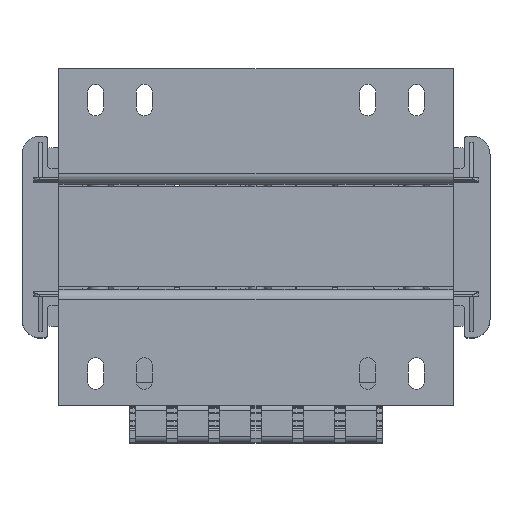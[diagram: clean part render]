
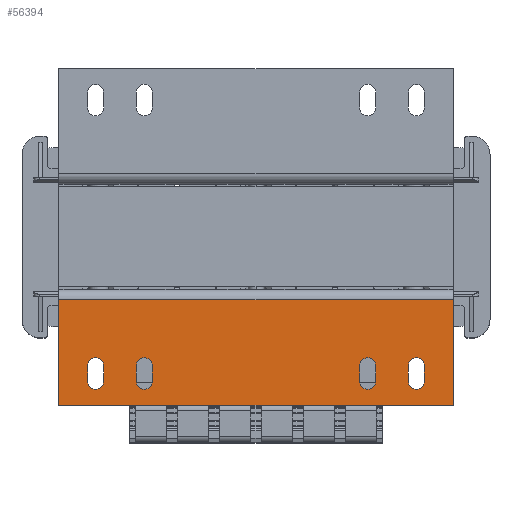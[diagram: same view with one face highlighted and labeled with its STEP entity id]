
A CAD part, top view. The second image highlights one B-rep face of the part: STEP entity #56394.
In plain terms, the highlighted planar face has unit normal (0, 0, 1).
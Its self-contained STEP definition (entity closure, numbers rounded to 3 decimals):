
#1546=DIRECTION('',(-1.,0.,0.));
#1547=VECTOR('',#1546,150.);
#1548=CARTESIAN_POINT('',(75.,-24.,17.));
#1549=LINE('',#1548,#1547);
#1920=DIRECTION('',(0.,-1.,0.));
#1921=VECTOR('',#1920,40.);
#1922=CARTESIAN_POINT('',(75.,-24.,17.));
#1923=LINE('',#1922,#1921);
#1924=DIRECTION('',(-1.,0.,0.));
#1925=VECTOR('',#1924,150.);
#1926=CARTESIAN_POINT('',(75.,-64.,17.));
#1927=LINE('',#1926,#1925);
#1928=DIRECTION('',(0.,1.,0.));
#1929=VECTOR('',#1928,40.);
#1930=CARTESIAN_POINT('',(-75.,-64.,17.));
#1931=LINE('',#1930,#1929);
#1932=DIRECTION('',(0.,1.,0.));
#1933=VECTOR('',#1932,6.);
#1934=CARTESIAN_POINT('',(-58.,-55.,17.));
#1935=LINE('',#1934,#1933);
#1936=CARTESIAN_POINT('',(-61.,-49.,17.));
#1937=DIRECTION('',(0.,0.,-1.));
#1938=DIRECTION('',(-1.,0.,0.));
#1939=AXIS2_PLACEMENT_3D('',#1936,#1937,#1938);
#1941=DIRECTION('',(0.,-1.,0.));
#1942=VECTOR('',#1941,6.);
#1943=CARTESIAN_POINT('',(-64.,-49.,17.));
#1944=LINE('',#1943,#1942);
#1945=CARTESIAN_POINT('',(-61.,-55.,17.));
#1946=DIRECTION('',(0.,0.,-1.));
#1947=DIRECTION('',(1.,0.,0.));
#1948=AXIS2_PLACEMENT_3D('',#1945,#1946,#1947);
#1950=DIRECTION('',(0.,1.,0.));
#1951=VECTOR('',#1950,6.);
#1952=CARTESIAN_POINT('',(64.,-55.,17.));
#1953=LINE('',#1952,#1951);
#1954=CARTESIAN_POINT('',(61.,-49.,17.));
#1955=DIRECTION('',(0.,0.,-1.));
#1956=DIRECTION('',(-1.,0.,0.));
#1957=AXIS2_PLACEMENT_3D('',#1954,#1955,#1956);
#1959=DIRECTION('',(0.,-1.,0.));
#1960=VECTOR('',#1959,6.);
#1961=CARTESIAN_POINT('',(58.,-49.,17.));
#1962=LINE('',#1961,#1960);
#1963=CARTESIAN_POINT('',(61.,-55.,17.));
#1964=DIRECTION('',(0.,0.,-1.));
#1965=DIRECTION('',(1.,0.,0.));
#1966=AXIS2_PLACEMENT_3D('',#1963,#1964,#1965);
#1968=DIRECTION('',(0.,1.,0.));
#1969=VECTOR('',#1968,6.);
#1970=CARTESIAN_POINT('',(-39.5,-55.,17.));
#1971=LINE('',#1970,#1969);
#1972=CARTESIAN_POINT('',(-42.5,-49.,17.));
#1973=DIRECTION('',(0.,0.,-1.));
#1974=DIRECTION('',(-1.,0.,0.));
#1975=AXIS2_PLACEMENT_3D('',#1972,#1973,#1974);
#1977=DIRECTION('',(0.,-1.,0.));
#1978=VECTOR('',#1977,6.);
#1979=CARTESIAN_POINT('',(-45.5,-49.,17.));
#1980=LINE('',#1979,#1978);
#1981=CARTESIAN_POINT('',(-42.5,-55.,17.));
#1982=DIRECTION('',(0.,0.,-1.));
#1983=DIRECTION('',(1.,0.,0.));
#1984=AXIS2_PLACEMENT_3D('',#1981,#1982,#1983);
#1986=DIRECTION('',(0.,1.,0.));
#1987=VECTOR('',#1986,6.);
#1988=CARTESIAN_POINT('',(45.5,-55.,17.));
#1989=LINE('',#1988,#1987);
#1990=CARTESIAN_POINT('',(42.5,-49.,17.));
#1991=DIRECTION('',(0.,0.,-1.));
#1992=DIRECTION('',(-1.,0.,0.));
#1993=AXIS2_PLACEMENT_3D('',#1990,#1991,#1992);
#1995=DIRECTION('',(0.,-1.,0.));
#1996=VECTOR('',#1995,6.);
#1997=CARTESIAN_POINT('',(39.5,-49.,17.));
#1998=LINE('',#1997,#1996);
#1999=CARTESIAN_POINT('',(42.5,-55.,17.));
#2000=DIRECTION('',(0.,0.,-1.));
#2001=DIRECTION('',(1.,0.,0.));
#2002=AXIS2_PLACEMENT_3D('',#1999,#2000,#2001);
#41703=CARTESIAN_POINT('',(75.,-64.,17.));
#41704=CARTESIAN_POINT('',(-75.,-64.,17.));
#41705=VERTEX_POINT('',#41703);
#41706=VERTEX_POINT('',#41704);
#41707=CARTESIAN_POINT('',(75.,-24.,17.));
#41708=VERTEX_POINT('',#41707);
#41709=CARTESIAN_POINT('',(-75.,-24.,17.));
#41710=VERTEX_POINT('',#41709);
#41735=CARTESIAN_POINT('',(-58.,-55.,17.));
#41736=CARTESIAN_POINT('',(-58.,-49.,17.));
#41737=VERTEX_POINT('',#41735);
#41738=VERTEX_POINT('',#41736);
#41739=CARTESIAN_POINT('',(-64.,-49.,17.));
#41740=VERTEX_POINT('',#41739);
#41741=CARTESIAN_POINT('',(-64.,-55.,17.));
#41742=VERTEX_POINT('',#41741);
#41751=CARTESIAN_POINT('',(64.,-55.,17.));
#41752=CARTESIAN_POINT('',(64.,-49.,17.));
#41753=VERTEX_POINT('',#41751);
#41754=VERTEX_POINT('',#41752);
#41755=CARTESIAN_POINT('',(58.,-49.,17.));
#41756=VERTEX_POINT('',#41755);
#41757=CARTESIAN_POINT('',(58.,-55.,17.));
#41758=VERTEX_POINT('',#41757);
#41767=CARTESIAN_POINT('',(-39.5,-55.,17.));
#41768=CARTESIAN_POINT('',(-39.5,-49.,17.));
#41769=VERTEX_POINT('',#41767);
#41770=VERTEX_POINT('',#41768);
#41771=CARTESIAN_POINT('',(-45.5,-49.,17.));
#41772=VERTEX_POINT('',#41771);
#41773=CARTESIAN_POINT('',(-45.5,-55.,17.));
#41774=VERTEX_POINT('',#41773);
#41783=CARTESIAN_POINT('',(45.5,-55.,17.));
#41784=CARTESIAN_POINT('',(45.5,-49.,17.));
#41785=VERTEX_POINT('',#41783);
#41786=VERTEX_POINT('',#41784);
#41787=CARTESIAN_POINT('',(39.5,-49.,17.));
#41788=VERTEX_POINT('',#41787);
#41789=CARTESIAN_POINT('',(39.5,-55.,17.));
#41790=VERTEX_POINT('',#41789);
#56342=CARTESIAN_POINT('',(0.,-42.,17.));
#56343=DIRECTION('',(0.,0.,-1.));
#56344=DIRECTION('',(-1.,0.,0.));
#56345=AXIS2_PLACEMENT_3D('',#56342,#56343,#56344);
#56346=PLANE('',#56345);
#56347=ORIENTED_EDGE('',*,*,#55856,.F.);
#56349=ORIENTED_EDGE('',*,*,#56348,.T.);
#56350=ORIENTED_EDGE('',*,*,#56335,.T.);
#56351=ORIENTED_EDGE('',*,*,#56267,.T.);
#56352=EDGE_LOOP('',(#56347,#56349,#56350,#56351));
#56353=FACE_OUTER_BOUND('',#56352,.F.);
#56355=ORIENTED_EDGE('',*,*,#56354,.T.);
#56357=ORIENTED_EDGE('',*,*,#56356,.F.);
#56359=ORIENTED_EDGE('',*,*,#56358,.T.);
#56361=ORIENTED_EDGE('',*,*,#56360,.F.);
#56362=EDGE_LOOP('',(#56355,#56357,#56359,#56361));
#56363=FACE_BOUND('',#56362,.F.);
#56365=ORIENTED_EDGE('',*,*,#56364,.T.);
#56367=ORIENTED_EDGE('',*,*,#56366,.F.);
#56369=ORIENTED_EDGE('',*,*,#56368,.T.);
#56371=ORIENTED_EDGE('',*,*,#56370,.F.);
#56372=EDGE_LOOP('',(#56365,#56367,#56369,#56371));
#56373=FACE_BOUND('',#56372,.F.);
#56375=ORIENTED_EDGE('',*,*,#56374,.T.);
#56377=ORIENTED_EDGE('',*,*,#56376,.F.);
#56379=ORIENTED_EDGE('',*,*,#56378,.T.);
#56381=ORIENTED_EDGE('',*,*,#56380,.F.);
#56382=EDGE_LOOP('',(#56375,#56377,#56379,#56381));
#56383=FACE_BOUND('',#56382,.F.);
#56385=ORIENTED_EDGE('',*,*,#56384,.T.);
#56387=ORIENTED_EDGE('',*,*,#56386,.F.);
#56389=ORIENTED_EDGE('',*,*,#56388,.T.);
#56391=ORIENTED_EDGE('',*,*,#56390,.F.);
#56392=EDGE_LOOP('',(#56385,#56387,#56389,#56391));
#56393=FACE_BOUND('',#56392,.F.);
#1940=CIRCLE('',#1939,3.);
#1949=CIRCLE('',#1948,3.);
#1958=CIRCLE('',#1957,3.);
#1967=CIRCLE('',#1966,3.);
#1976=CIRCLE('',#1975,3.);
#1985=CIRCLE('',#1984,3.);
#1994=CIRCLE('',#1993,3.);
#2003=CIRCLE('',#2002,3.);
#55856=EDGE_CURVE('',#41708,#41710,#1549,.T.);
#56267=EDGE_CURVE('',#41706,#41710,#1931,.T.);
#56335=EDGE_CURVE('',#41705,#41706,#1927,.T.);
#56348=EDGE_CURVE('',#41708,#41705,#1923,.T.);
#56354=EDGE_CURVE('',#41737,#41738,#1935,.T.);
#56356=EDGE_CURVE('',#41740,#41738,#1940,.T.);
#56358=EDGE_CURVE('',#41740,#41742,#1944,.T.);
#56360=EDGE_CURVE('',#41737,#41742,#1949,.T.);
#56364=EDGE_CURVE('',#41753,#41754,#1953,.T.);
#56366=EDGE_CURVE('',#41756,#41754,#1958,.T.);
#56368=EDGE_CURVE('',#41756,#41758,#1962,.T.);
#56370=EDGE_CURVE('',#41753,#41758,#1967,.T.);
#56374=EDGE_CURVE('',#41769,#41770,#1971,.T.);
#56376=EDGE_CURVE('',#41772,#41770,#1976,.T.);
#56378=EDGE_CURVE('',#41772,#41774,#1980,.T.);
#56380=EDGE_CURVE('',#41769,#41774,#1985,.T.);
#56384=EDGE_CURVE('',#41785,#41786,#1989,.T.);
#56386=EDGE_CURVE('',#41788,#41786,#1994,.T.);
#56388=EDGE_CURVE('',#41788,#41790,#1998,.T.);
#56390=EDGE_CURVE('',#41785,#41790,#2003,.T.);
#56394=ADVANCED_FACE('',(#56353,#56363,#56373,#56383,#56393),#56346,.F.);
